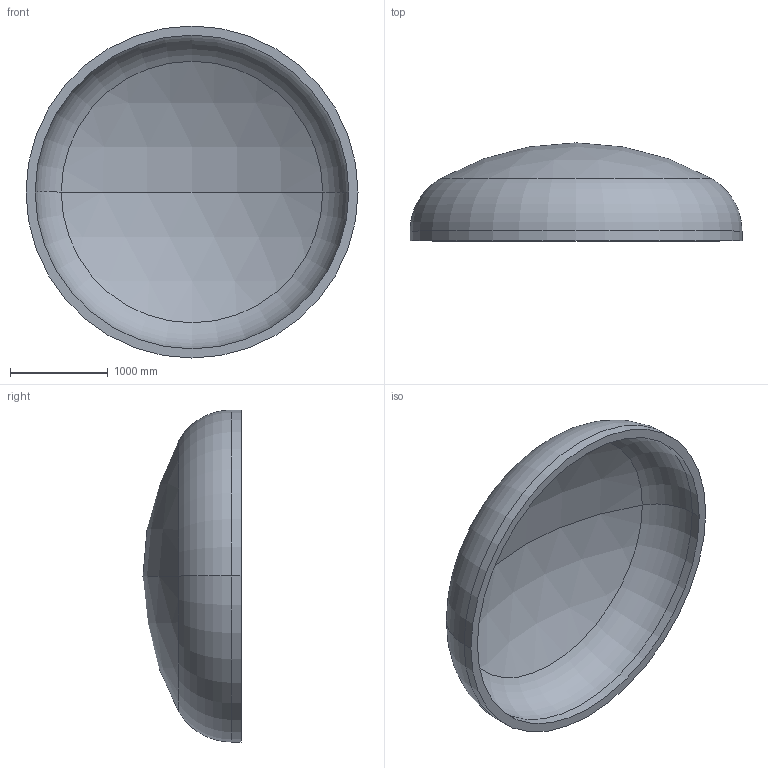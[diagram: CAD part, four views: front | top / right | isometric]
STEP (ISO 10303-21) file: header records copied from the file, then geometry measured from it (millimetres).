
FILE_DESCRIPTION (( 'STEP AP203' ), '1' );
FILE_NAME ('DIN 28013 Korbbogenform_-_Boden DIN 28013 - 3400 x 100 - I - s=94.step', '2016-07-01T19:50:29', ( '' ), ( '' ), 'SwSTEP 2.0', 'SolidWorks 2013', '' );
FILE_SCHEMA (( 'CONFIG_CONTROL_DESIGN' ));
Length unit declared in the file: millimetre
Products named in the file (1): DIN 28013 Korbbogenform_-_Boden DIN 28013 - 3400 x 100 - I - s=94
Bounding box: 3400 x 1003.64 x 3400 mm (x, y, z)
Volume: 1238240628.1 mm3; surface area: 27340336.4 mm2
Topology: 1 solids, 1 shells, 13 faces, 24 edges, 14 vertices
Faces by surface type: torus 4, cylinder 4, sphere 4, plane 1
Entity records: 407 total; most frequent: DIRECTION 72, CARTESIAN_POINT 52, ORIENTED_EDGE 48, AXIS2_PLACEMENT_3D 34, EDGE_CURVE 24, CIRCLE 20, EDGE_LOOP 14, VERTEX_POINT 14
